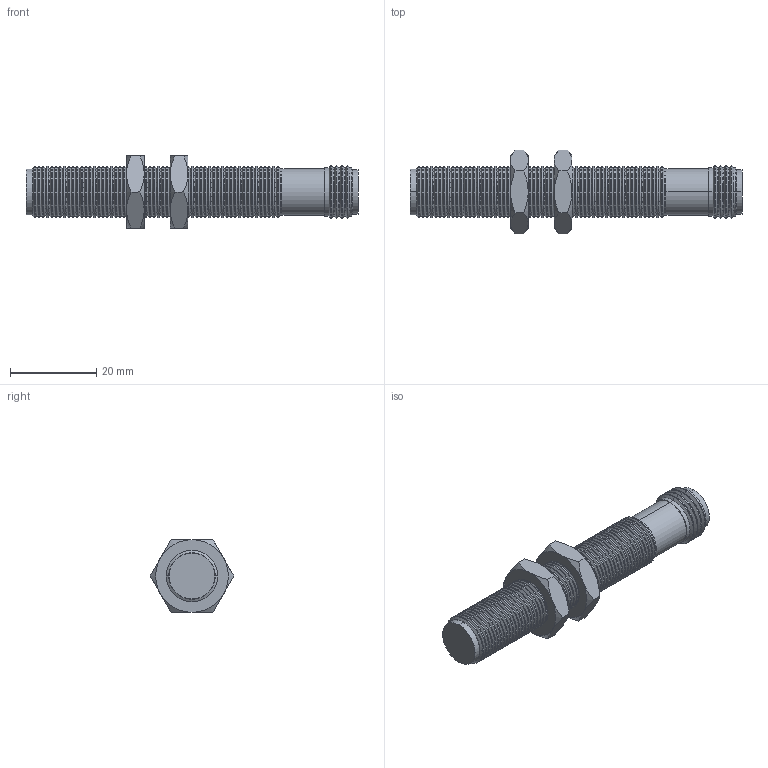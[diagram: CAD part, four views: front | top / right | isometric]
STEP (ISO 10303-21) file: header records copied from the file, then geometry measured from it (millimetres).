
FILE_DESCRIPTION (( 'STEP AP203' ), '1' );
FILE_NAME ('90-XXXX-013.STEP', '2015-08-31T03:16:35', ( 'Sam' ), ( 'Spade' ), 'SwSTEP 2.0', 'SolidWorks 2002296', '' );
FILE_SCHEMA (( 'CONFIG_CONTROL_DESIGN' ));
Length unit declared in the file: inch
Products named in the file (9): 90-XXXX-013; Imported60; Imported59; Imported58; Imported55; Imported54; Imported61; Imported57; Imported56
Assembly tree (8 placements, depth 2):
  90-XXXX-013
    Imported56
    Imported59
    Imported58
    Imported57
    Imported61
    Imported54
    Imported60
    Imported55
Bounding box: 77.09 x 19.47 x 16.87 mm (x, y, z)
Volume: 8600.7 mm3; surface area: 6711.5 mm2
Topology: 8 solids, 8 shells, 518 faces, 1157 edges, 657 vertices
Faces by surface type: cone 314, cylinder 161, plane 37, bspline 6
Entity records: 15342 total; most frequent: DIRECTION 2777, CARTESIAN_POINT 2619, ORIENTED_EDGE 2302, EDGE_CURVE 1151, AXIS2_PLACEMENT_3D 1151, VERTEX_POINT 657, CIRCLE 628, EDGE_LOOP 530
